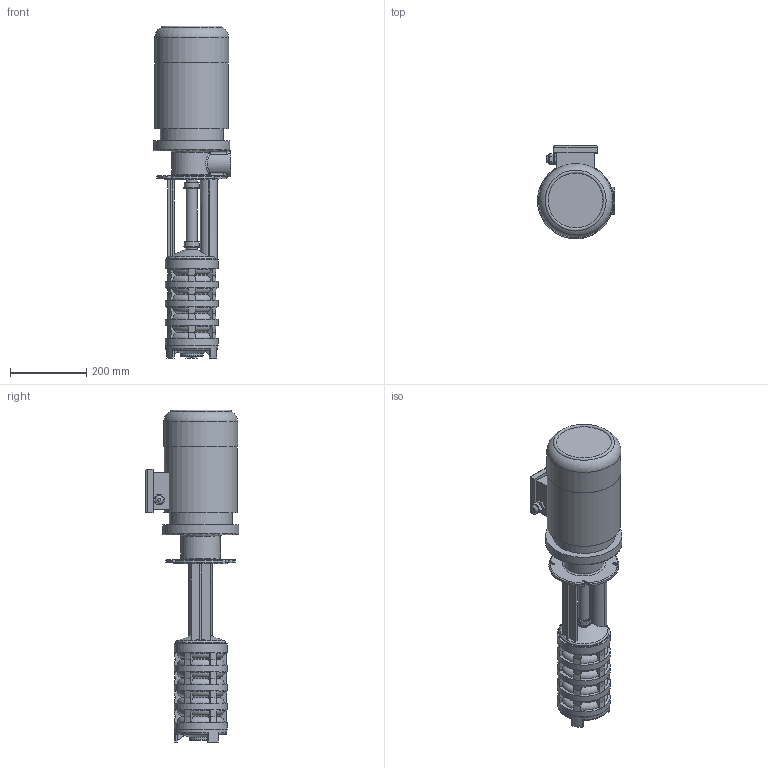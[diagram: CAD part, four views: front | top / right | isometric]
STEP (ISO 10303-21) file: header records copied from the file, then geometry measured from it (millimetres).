
FILE_DESCRIPTION(/* description */ ('Unknown'),/* implementation_level */ '2;1');
FILE_NAME(/* name */ 'gp5-470',/* time_stamp */ '2025-06-12T11:05:56+03:00',/* author */ ('Unknown'),/* organization */ ('Unknown'),/* preprocessor_version */ 'ST-DEVELOPER v16.7',/* originating_system */ 'DEX',/* authorisation */ $);
FILE_SCHEMA (('AUTOMOTIVE_DESIGN {1 0 10303 214 3 1 1}'));
Length unit declared in the file: millimetre
Products named in the file (1): gp5-470
Bounding box: 202 x 245.5 x 870.5 mm (x, y, z)
Volume: 14870910.4 mm3; surface area: 626009 mm2
Topology: 1 solids, 1 shells, 474 faces, 1260 edges, 819 vertices
Faces by surface type: plane 158, cylinder 94, bspline 84, cone 73, torus 65
Full cylindrical faces by diameter (mm): 17 x1, 21.5 x1, 29 x3, 33 x2, 35 x2, 39 x2, 40.5 x2, 45 x1, 47 x1, 60 x1, 137 x1, 139 x5, 140 x1, 165 x1, 192.353 x1, 194 x1, 200 x1
Entity records: 17323 total; most frequent: CARTESIAN_POINT 6092, ORIENTED_EDGE 2374, DIRECTION 2213, EDGE_CURVE 1187, AXIS2_PLACEMENT_3D 842, VERTEX_POINT 803, EDGE_LOOP 566, FACE_BOUND 566
